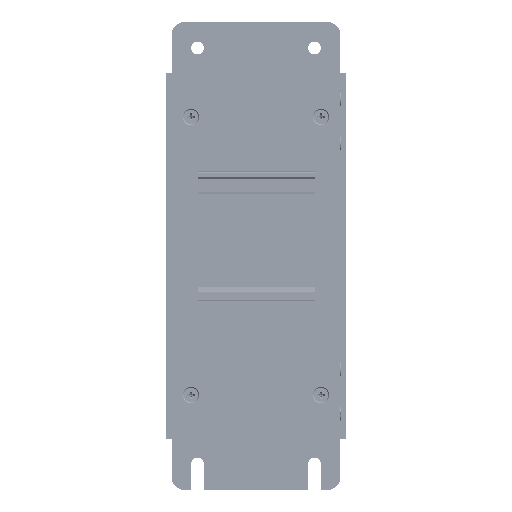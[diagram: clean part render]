
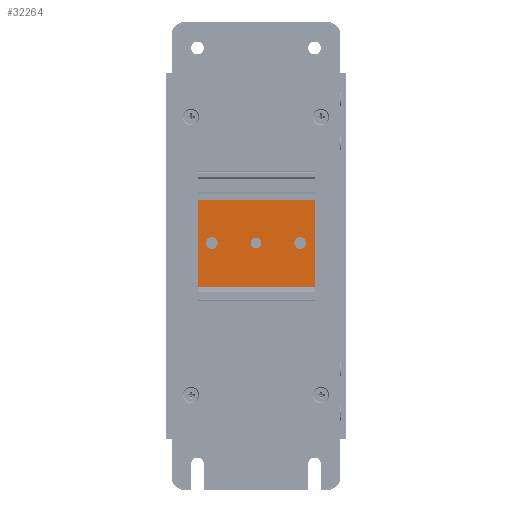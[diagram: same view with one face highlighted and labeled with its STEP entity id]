
A CAD part, left-side view. The second image highlights one B-rep face of the part: STEP entity #32264.
In plain terms, the highlighted planar face has unit normal (-1, 0, 0).
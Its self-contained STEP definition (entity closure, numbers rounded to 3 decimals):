
#32264=ADVANCED_FACE('',(#310908,#310910,#310912,#310914),#310916,.T.);
#310908=FACE_BOUND('',#310909,.T.);
#310909=EDGE_LOOP('',(#539960,#539961,#539962,#539963));
#310910=FACE_BOUND('',#310911,.T.);
#310911=EDGE_LOOP('',(#539964));
#310912=FACE_BOUND('',#310913,.T.);
#310913=EDGE_LOOP('',(#539965));
#310914=FACE_BOUND('',#310915,.T.);
#310915=EDGE_LOOP('',(#539966));
#310916=PLANE('',#310917);
#310917=AXIS2_PLACEMENT_3D('',#310918,#310919,#310920);
#310918=CARTESIAN_POINT('',(-5.,10.,56.2));
#310919=DIRECTION('',(-1.,0.,0.));
#310920=DIRECTION('',(0.,0.,1.));
#539960=ORIENTED_EDGE('',*,*,#709583,.T.);
#539961=ORIENTED_EDGE('',*,*,#710188,.T.);
#539962=ORIENTED_EDGE('',*,*,#709605,.F.);
#539963=ORIENTED_EDGE('',*,*,#710189,.F.);
#539964=ORIENTED_EDGE('',*,*,#710080,.T.);
#539965=ORIENTED_EDGE('',*,*,#710081,.T.);
#539966=ORIENTED_EDGE('',*,*,#710190,.T.);
#709583=EDGE_CURVE('',#805388,#805386,#805389,.T.);
#709605=EDGE_CURVE('',#805428,#805430,#805431,.T.);
#710080=EDGE_CURVE('',#806227,#806227,#806228,.F.);
#710081=EDGE_CURVE('',#806229,#806229,#806230,.F.);
#710188=EDGE_CURVE('',#805386,#805430,#806425,.T.);
#710189=EDGE_CURVE('',#805388,#805428,#806426,.T.);
#710190=EDGE_CURVE('',#806427,#806427,#806428,.F.);
#805386=VERTEX_POINT('',#977198);
#805388=VERTEX_POINT('',#977202);
#805389=LINE('',#977203,#977204);
#805428=VERTEX_POINT('',#977293);
#805430=VERTEX_POINT('',#977298);
#805431=LINE('',#977299,#977300);
#806227=VERTEX_POINT('',#981202);
#806228=CIRCLE('',#981203,2.25);
#806229=VERTEX_POINT('',#981207);
#806230=CIRCLE('',#981208,2.25);
#806425=LINE('',#981626,#981627);
#806426=LINE('',#981629,#981630);
#806427=VERTEX_POINT('',#981632);
#806428=CIRCLE('',#981633,2.);
#977198=CARTESIAN_POINT('',(-5.,10.,90.));
#977202=CARTESIAN_POINT('',(-5.,10.,56.2));
#977203=CARTESIAN_POINT('',(-5.,10.,56.2));
#977204=VECTOR('',#977205,1.);
#977205=DIRECTION('',(0.,0.,1.));
#977293=CARTESIAN_POINT('',(-5.,55.,56.2));
#977298=CARTESIAN_POINT('',(-5.,55.,90.));
#977299=CARTESIAN_POINT('',(-5.,55.,56.2));
#977300=VECTOR('',#977301,1.);
#977301=DIRECTION('',(0.,0.,1.));
#981202=CARTESIAN_POINT('',(-5.,47.25,73.5));
#981203=AXIS2_PLACEMENT_3D('',#981204,#981205,#981206);
#981204=CARTESIAN_POINT('',(-5.,49.5,73.5));
#981205=DIRECTION('',(-1.,0.,0.));
#981206=DIRECTION('',(0.,-1.,0.));
#981207=CARTESIAN_POINT('',(-5.,13.25,73.5));
#981208=AXIS2_PLACEMENT_3D('',#981209,#981210,#981211);
#981209=CARTESIAN_POINT('',(-5.,15.5,73.5));
#981210=DIRECTION('',(-1.,0.,0.));
#981211=DIRECTION('',(0.,-1.,0.));
#981626=CARTESIAN_POINT('',(-5.,10.,90.));
#981627=VECTOR('',#981628,1.);
#981628=DIRECTION('',(0.,1.,0.));
#981629=CARTESIAN_POINT('',(-5.,10.,56.2));
#981630=VECTOR('',#981631,1.);
#981631=DIRECTION('',(0.,1.,0.));
#981632=CARTESIAN_POINT('',(-5.,30.5,73.5));
#981633=AXIS2_PLACEMENT_3D('',#981634,#981635,#981636);
#981634=CARTESIAN_POINT('',(-5.,32.5,73.5));
#981635=DIRECTION('',(-1.,0.,0.));
#981636=DIRECTION('',(0.,-1.,0.));
